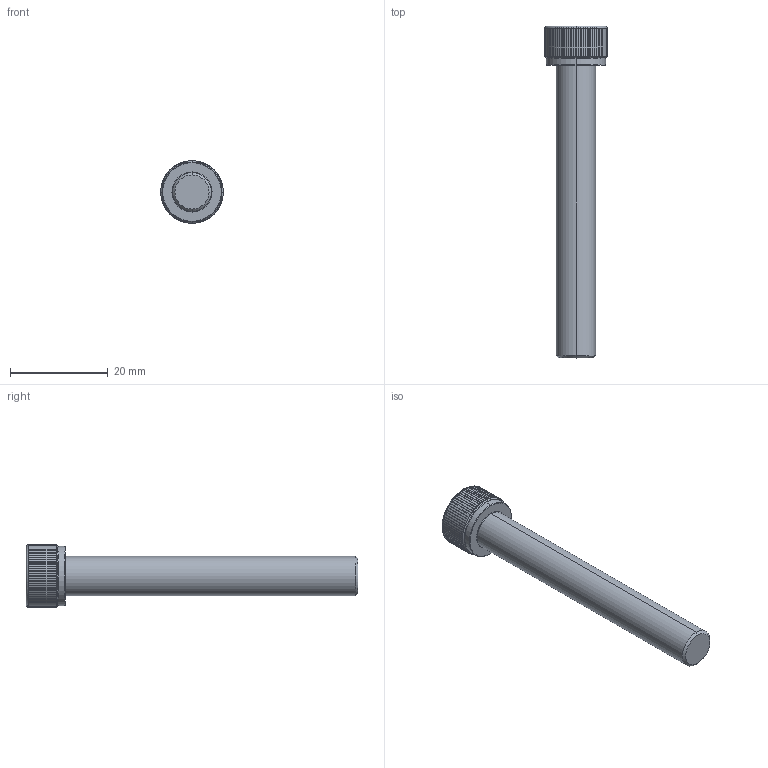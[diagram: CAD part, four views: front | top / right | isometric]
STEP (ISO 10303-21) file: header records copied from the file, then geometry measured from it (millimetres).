
FILE_DESCRIPTION (( 'STEP AP203' ), '1' );
FILE_NAME ('LGDT-304-M8x60.STEP', '2026-08-10T06:53:19', ( '' ), ( '' ), 'SwSTEP 2.0', 'SolidWorks 2020', '' );
FILE_SCHEMA (( 'CONFIG_CONTROL_DESIGN' ));
Length unit declared in the file: millimetre
Products named in the file (1): LGDT-304-M8x60
Bounding box: 12.8 x 68 x 12.8 mm (x, y, z)
Volume: 3864.4 mm3; surface area: 2161.5 mm2
Topology: 1 solids, 1 shells, 204 faces, 576 edges, 376 vertices
Faces by surface type: cylinder 175, cone 11, plane 10, torus 8
Entity records: 8367 total; most frequent: CARTESIAN_POINT 3208, ORIENTED_EDGE 1152, DIRECTION 988, EDGE_CURVE 576, AXIS2_PLACEMENT_3D 398, VERTEX_POINT 376, EDGE_LOOP 206, FACE_OUTER_BOUND 204
